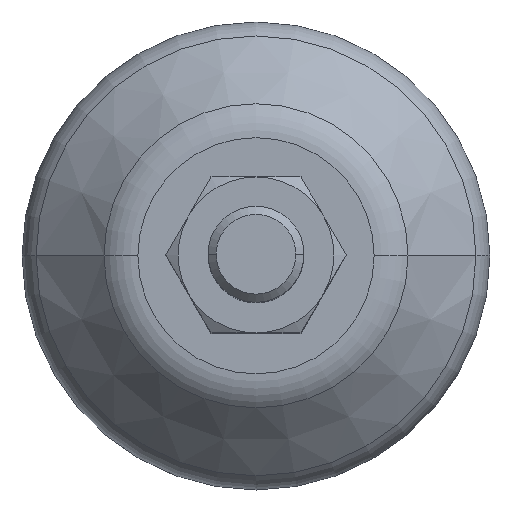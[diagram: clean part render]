
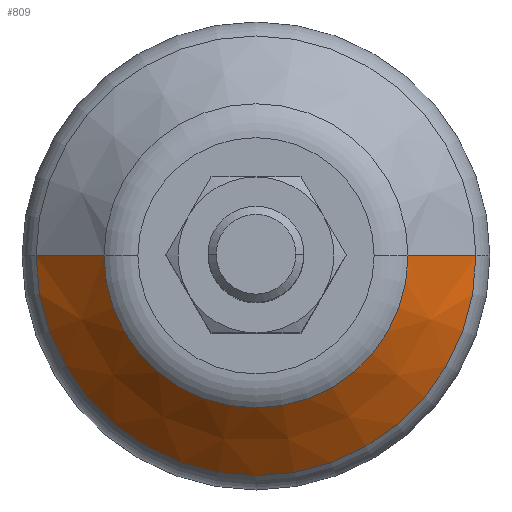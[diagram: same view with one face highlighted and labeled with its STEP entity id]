
A CAD part, top view. The second image highlights one B-rep face of the part: STEP entity #809.
In plain terms, the highlighted conical face has half-angle 45 degrees and reference radius 18.328 mm.
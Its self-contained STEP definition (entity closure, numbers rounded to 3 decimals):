
#19 = DIRECTION ( 'NONE',  ( -0.707, 0., -0.707 ) ) ;
#110 = DIRECTION ( 'NONE',  ( -1., 0., 0. ) ) ;
#126 = DIRECTION ( 'NONE',  ( 0., 0., -1. ) ) ;
#156 = VERTEX_POINT ( 'NONE', #2476 ) ;
#231 = LINE ( 'NONE', #2179, #1549 ) ;
#379 = CARTESIAN_POINT ( 'NONE',  ( -12.672, 0., 10.828 ) ) ;
#401 = CARTESIAN_POINT ( 'NONE',  ( -18.328, 0., 5.172 ) ) ;
#409 = VERTEX_POINT ( 'NONE', #379 ) ;
#514 = CARTESIAN_POINT ( 'NONE',  ( 18.328, 0., 5.172 ) ) ;
#545 = CIRCLE ( 'NONE', #2504, 18.328 ) ;
#552 = CARTESIAN_POINT ( 'NONE',  ( 18.328, 0., 5.172 ) ) ;
#618 = DIRECTION ( 'NONE',  ( 0., 0., -1. ) ) ;
#809 = ADVANCED_FACE ( 'NONE', ( #945 ), #1564, .T. ) ;
#945 = FACE_OUTER_BOUND ( 'NONE', #1978, .T. ) ;
#1027 = CARTESIAN_POINT ( 'NONE',  ( 0., 0., 5.172 ) ) ;
#1202 = EDGE_CURVE ( 'NONE', #156, #1972, #1926, .T. ) ;
#1315 = AXIS2_PLACEMENT_3D ( 'NONE', #2261, #2287, #1909 ) ;
#1365 = DIRECTION ( 'NONE',  ( 0.707, 0., -0.707 ) ) ;
#1392 = VERTEX_POINT ( 'NONE', #401 ) ;
#1502 = EDGE_CURVE ( 'NONE', #156, #409, #1734, .T. ) ;
#1549 = VECTOR ( 'NONE', #19, 1000. ) ;
#1564 = CONICAL_SURFACE ( 'NONE', #2348, 18.328, 0.785 ) ;
#1618 = ORIENTED_EDGE ( 'NONE', *, *, #1202, .F. ) ;
#1634 = DIRECTION ( 'NONE',  ( -1., 0., 0. ) ) ;
#1734 = CIRCLE ( 'NONE', #1315, 12.672 ) ;
#1909 = DIRECTION ( 'NONE',  ( -1., 0., 0. ) ) ;
#1926 = LINE ( 'NONE', #552, #2178 ) ;
#1972 = VERTEX_POINT ( 'NONE', #514 ) ;
#1978 = EDGE_LOOP ( 'NONE', ( #1618, #2534, #2245, #2479 ) ) ;
#2057 = EDGE_CURVE ( 'NONE', #1972, #1392, #545, .T. ) ;
#2178 = VECTOR ( 'NONE', #1365, 1000. ) ;
#2179 = CARTESIAN_POINT ( 'NONE',  ( -18.328, 0., 5.172 ) ) ;
#2245 = ORIENTED_EDGE ( 'NONE', *, *, #2264, .T. ) ;
#2261 = CARTESIAN_POINT ( 'NONE',  ( 0., 0., 10.828 ) ) ;
#2264 = EDGE_CURVE ( 'NONE', #409, #1392, #231, .T. ) ;
#2287 = DIRECTION ( 'NONE',  ( 0., 0., -1. ) ) ;
#2348 = AXIS2_PLACEMENT_3D ( 'NONE', #1027, #618, #1634 ) ;
#2476 = CARTESIAN_POINT ( 'NONE',  ( 12.672, 0., 10.828 ) ) ;
#2479 = ORIENTED_EDGE ( 'NONE', *, *, #2057, .F. ) ;
#2504 = AXIS2_PLACEMENT_3D ( 'NONE', #2565, #126, #110 ) ;
#2534 = ORIENTED_EDGE ( 'NONE', *, *, #1502, .T. ) ;
#2565 = CARTESIAN_POINT ( 'NONE',  ( 0., 0., 5.172 ) ) ;
